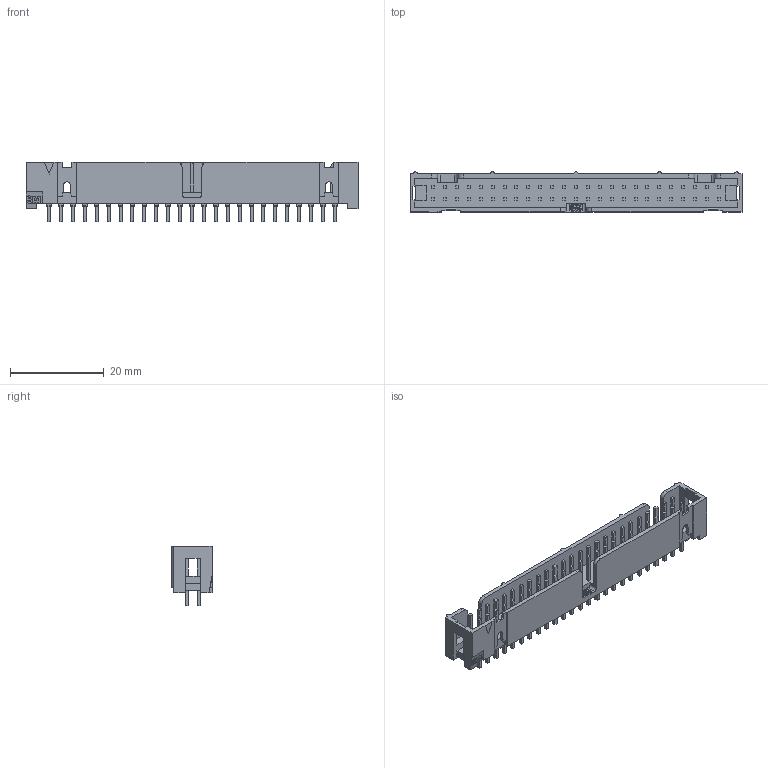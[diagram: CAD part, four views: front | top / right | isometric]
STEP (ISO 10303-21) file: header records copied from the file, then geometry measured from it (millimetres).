
FILE_DESCRIPTION(/* description */ (''),/* implementation_level */ '2;1');
FILE_NAME(/* name */ '2550-6002.stp',/* time_stamp */ '2021-10-05T05:18:02-05:00',/* author */ (''),/* organization */ (''),/* preprocessor_version */ 'ST-DEVELOPER v16.7',/* originating_system */ 'SIEMENS PLM Software NX 12.0',/* authorisation */ '');
FILE_SCHEMA (('AUTOMOTIVE_DESIGN { 1 0 10303 214 3 1 1 1 }'));
Length unit declared in the file: inch
Products named in the file (1): US2926E42DCBi0tg
Bounding box: 70.82 x 8.64 x 12.75 mm (x, y, z)
Volume: 2334.2 mm3; surface area: 4828.6 mm2
Topology: 1 solids, 1 shells, 919 faces, 2304 edges, 1536 vertices
Faces by surface type: plane 835, cylinder 71, extrusion 13
Entity records: 27650 total; most frequent: CARTESIAN_POINT 5512, ORIENTED_EDGE 4606, DIRECTION 4198, EDGE_CURVE 2303, VECTOR 2100, LINE 2087, VERTEX_POINT 1536, EDGE_LOOP 1077
